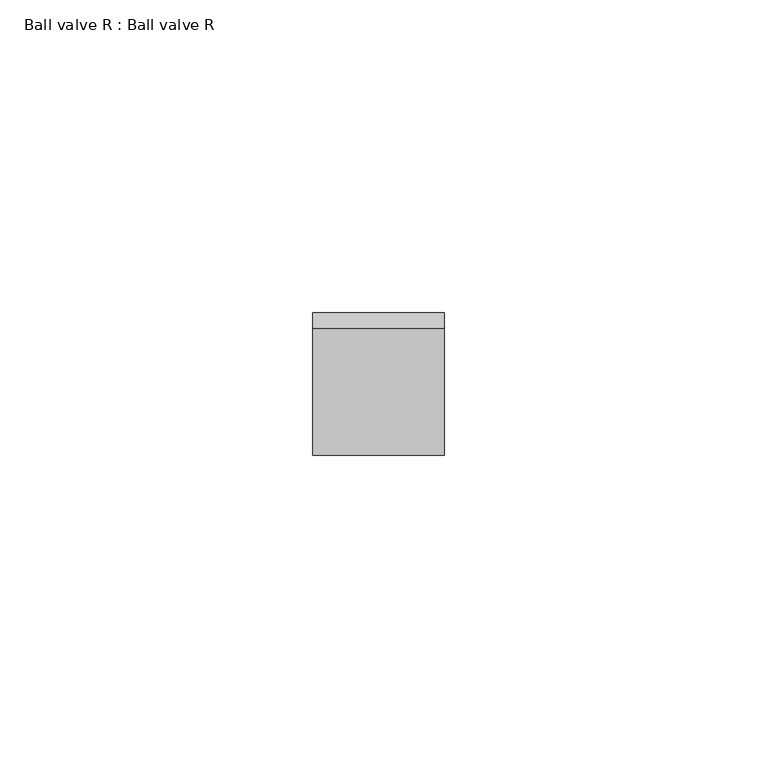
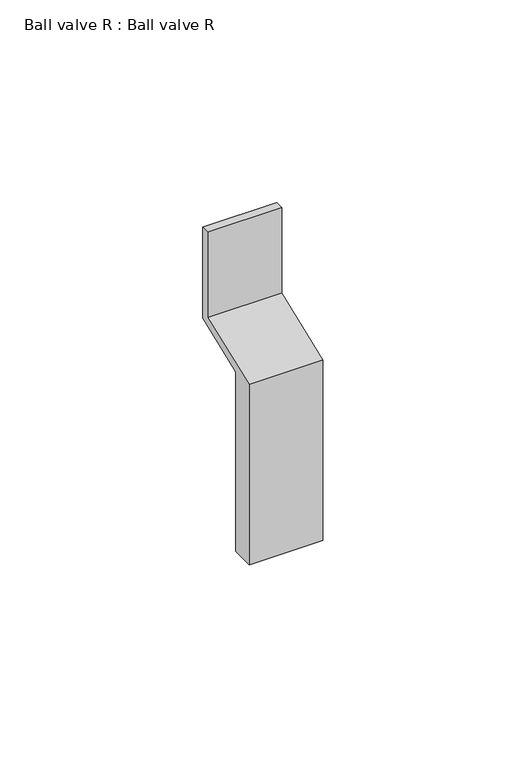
"""IFC4 building model written with IfcOpenShell, lengths in millimetres: proxy geometry, Ball valve R : Ball valve R."""

import ifcopenshell
import ifcopenshell.guid

model = None  # the IFC model being written
_history = None  # IfcOwnerHistory: only IFC2X3 demands one
_inside = {}  # id of a spatial element -> (the spatial element, [elements in it])
_under = {}  # id of a project, library or spatial element -> (it, [spatial elements below it])
_declared = {}  # id of a project -> (the project, [libraries it declares])
_typed = {}  # id of a type object -> (the type object, [elements of that type])
_made_of = {}  # id of a material, layer set ... -> (it, [elements and type objects made of it])


def new_model(schema):
    """Start an empty IFC model of exactly this schema.

    Asked for "IFC4X3", IfcOpenShell would pick the latest addendum, in which some entities
    have other attributes; the version numbers below select the first issue.
    IFC2X3 requires an IfcOwnerHistory on every rooted entity: one is made here for all.
    """
    global model, _history
    if schema == "IFC4X3":
        model = ifcopenshell.file(schema_version=(4, 3, 0, 0))
    else:
        model = ifcopenshell.file(schema=schema)
    _inside.clear()
    _under.clear()
    _declared.clear()
    _typed.clear()
    _made_of.clear()
    _history = None
    if model.schema == "IFC2X3":
        org = make("IfcOrganization", Name="unknown")
        user = make(
            "IfcPersonAndOrganization",
            ThePerson=make("IfcPerson", FamilyName="unknown"),
            TheOrganization=org,
        )
        app = make(
            "IfcApplication",
            ApplicationDeveloper=org,
            Version="unknown",
            ApplicationFullName="unknown",
            ApplicationIdentifier="unknown",
        )
        _history = make(
            "IfcOwnerHistory",
            OwningUser=user,
            OwningApplication=app,
            ChangeAction="ADDED",
            CreationDate=0,
        )
    return model


def make(cls, **values):
    """One entity of the class cls with the attributes given. An attribute that is None is left unset."""
    return model.create_entity(
        cls, **{name: value for name, value in values.items() if value is not None}
    )


def rooted(cls, **values):
    """An entity with a GlobalId (a new one), such as an element, a storey or a relation."""
    return make(cls, GlobalId=ifcopenshell.guid.new(), OwnerHistory=_history, **values)


def si_unit(unit_type, name, prefix=None):
    """IfcSIUnit, for example si_unit("LENGTHUNIT", "METRE", prefix="MILLI")."""
    return make("IfcSIUnit", UnitType=unit_type, Prefix=prefix, Name=name)


def assignment(units):
    """IfcUnitAssignment: the units of a project."""
    return None if units is None else make("IfcUnitAssignment", Units=units)


def point(xyz):
    """IfcCartesianPoint."""
    return None if xyz is None else make("IfcCartesianPoint", Coordinates=xyz)


def direction(xyz):
    """IfcDirection."""
    return None if xyz is None else make("IfcDirection", DirectionRatios=xyz)


def frame(location, z_axis=None, x_axis=None):
    """IfcAxis2Placement3D, a coordinate frame: its origin and axes. An axis left out is left unset."""
    return make(
        "IfcAxis2Placement3D",
        Location=point(location),
        Axis=direction(z_axis),
        RefDirection=direction(x_axis),
    )


def origin():
    """The frame at (0, 0, 0) with its axes left unset."""
    return frame((0.0, 0.0, 0.0))


def place(relative_to, where):
    """IfcLocalPlacement: puts the frame where relative to a parent placement (None: the world)."""
    return make(
        "IfcLocalPlacement", PlacementRelTo=relative_to, RelativePlacement=where
    )


def context(
    kind, dimensions, precision=None, world=None, true_north=None, identifier=None
):
    """IfcGeometricRepresentationContext, for example the 3D "Model" context."""
    return make(
        "IfcGeometricRepresentationContext",
        ContextIdentifier=identifier,
        ContextType=kind,
        CoordinateSpaceDimension=dimensions,
        Precision=precision,
        WorldCoordinateSystem=world,
        TrueNorth=true_north,
    )


def project(units=None, contexts=None):
    """IfcProject with its units and contexts."""
    return rooted(
        "IfcProject",
        Name="project",
        RepresentationContexts=contexts,
        UnitsInContext=assignment(units),
    )


def spatial(cls, under=None, at=None, **own):
    """A site, building, storey or space (cls), placed at a placement, below another one or the project."""
    s = rooted(cls, ObjectPlacement=at, **own)
    if under is not None:
        _under.setdefault(under.id(), (under, []))[1].append(s)
    return s


def polyline(points):
    """IfcPolyline through the points."""
    return make("IfcPolyline", Points=[point(p) for p in points])


def outline(outer, holes=None, kind="AREA"):
    """IfcArbitraryClosedProfileDef: a profile drawn as a closed curve; with holes, ...WithVoids."""
    if holes is None:
        return make("IfcArbitraryClosedProfileDef", ProfileType=kind, OuterCurve=outer)
    return make(
        "IfcArbitraryProfileDefWithVoids",
        ProfileType=kind,
        OuterCurve=outer,
        InnerCurves=holes,
    )


def extrude(swept, where, along, depth):
    """IfcExtrudedAreaSolid: the profile swept, set in the frame where, extruded along a direction by depth."""
    return make(
        "IfcExtrudedAreaSolid",
        SweptArea=swept,
        Position=where,
        ExtrudedDirection=direction(along),
        Depth=depth,
    )


def shape(context_of_items, identifier, shape_type, items):
    """IfcShapeRepresentation: the items that make up one representation, for example the "Body"."""
    return make(
        "IfcShapeRepresentation",
        ContextOfItems=context_of_items,
        RepresentationIdentifier=identifier,
        RepresentationType=shape_type,
        Items=items,
    )


def source(mapping_origin, context_of_items, identifier, shape_type, items):
    """IfcRepresentationMap: a shape defined once, which mapped items show again and again."""
    return make(
        "IfcRepresentationMap",
        MappingOrigin=mapping_origin,
        MappedRepresentation=shape(context_of_items, identifier, shape_type, items),
    )


def transform(
    local_origin,
    x_axis=None,
    y_axis=None,
    z_axis=None,
    scale=None,
    scale2=None,
    scale3=None,
    uniform=True,
):
    """IfcCartesianTransformationOperator3D, or its non-uniform kind. x_axis, y_axis, z_axis: its Axis1, 2, 3."""
    if uniform:
        return make(
            "IfcCartesianTransformationOperator3D",
            Axis1=direction(x_axis),
            Axis2=direction(y_axis),
            LocalOrigin=point(local_origin),
            Scale=scale,
            Axis3=direction(z_axis),
        )
    return make(
        "IfcCartesianTransformationOperator3DnonUniform",
        Axis1=direction(x_axis),
        Axis2=direction(y_axis),
        LocalOrigin=point(local_origin),
        Scale=scale,
        Axis3=direction(z_axis),
        Scale2=scale2,
        Scale3=scale3,
    )


def mapped(mapping_source, mapping_target):
    """IfcMappedItem: shows the shape of a source again, moved by a transform."""
    return make(
        "IfcMappedItem", MappingSource=mapping_source, MappingTarget=mapping_target
    )


def made_of(thing, what):
    """Note that an element or type object is made of a material, layer set ...; save() writes the relation."""
    if what is not None:
        _made_of.setdefault(what.id(), (what, []))[1].append(thing)
    return thing


def element(
    cls,
    number,
    at=None,
    inside=None,
    cuts=None,
    type_object=None,
    material=None,
    context=None,
    identifier="Body",
    shape_type=None,
    held_by="IfcProductDefinitionShape",
    body=None,
    shapes=None,
    **own,
):
    """One element of the class cls, such as IfcWall. Its Tag is "e" and its number.

    at: its placement. inside: the storey or other place that contains it. cuts: it is an
    opening in that element (IfcRelVoidsElement). A single representation is given by context,
    identifier, shape_type and body (its items); several are given by shapes. held_by: the class
    of the entity that holds the representations. save() writes the other relations.
    """
    e = rooted(cls, Tag="e%d" % number, ObjectPlacement=at, **own)
    if body is not None:
        shapes = [shape(context, identifier, shape_type, body)]
    if shapes is not None:
        e.Representation = make(held_by, Representations=shapes)
    if inside is not None:
        _inside.setdefault(inside.id(), (inside, []))[1].append(e)
    if cuts is not None:
        rooted(
            "IfcRelVoidsElement", RelatingBuildingElement=cuts, RelatedOpeningElement=e
        )
    if type_object is not None:
        _typed.setdefault(type_object.id(), (type_object, []))[1].append(e)
    return made_of(e, material)


def aggregate(whole, parts):
    """IfcRelAggregates: a whole, such as a stair, and the parts it consists of."""
    return rooted("IfcRelAggregates", RelatingObject=whole, RelatedObjects=parts)


def save(model, path):
    """Write the relations noted so far, then the file.

    IfcRelAggregates (storeys below a building ...), IfcRelContainedInSpatialStructure (elements
    in a storey), IfcRelDefinesByType, IfcRelAssociatesMaterial and IfcRelDeclares: one each for
    every whole, place, type object, material and project.
    """
    for whole, parts in _under.values():
        aggregate(whole, parts)
    for where, things in _inside.values():
        rooted(
            "IfcRelContainedInSpatialStructure",
            RelatedElements=things,
            RelatingStructure=where,
        )
    for kind, things in _typed.values():
        rooted("IfcRelDefinesByType", RelatedObjects=things, RelatingType=kind)
    for what, things in _made_of.values():
        rooted("IfcRelAssociatesMaterial", RelatedObjects=things, RelatingMaterial=what)
    for by, libraries in _declared.values():
        rooted("IfcRelDeclares", RelatingContext=by, RelatedDefinitions=libraries)
    model.write(path)


def ball_valve_r_ball_valve_r_0116fd80(model_context):
    return source(origin(), model_context, "Body", "SweptSolid", [
        extrude(outline(polyline([(3.25, -59.3027321), (-3.25, -59.3027321), (-3.25, -5.0690551), (17.0, 2.8817821), (17.0, 28.5), (19.5, 28.5), (19.5, 1.1775693), (3.25, -5.2027321), (3.25, -59.3027321)])), frame((-10.5, 0.0, 0.0), z_axis=(1.0, 0.0, 0.0), x_axis=(0.0, 1.0, 0.0)), (0.0, 0.0, 1.0), 21.0),
    ])


if __name__ == "__main__":
    model = new_model("IFC4")
    model_context = context("Model", 3, world=origin())
    ifc_project = project(units=[si_unit("LENGTHUNIT", "METRE", prefix="MILLI")], contexts=[model_context])
    site = spatial("IfcSite", under=ifc_project)
    building = spatial("IfcBuilding", under=site)
    placement = place(None, origin())
    ball_valve_r_ball_valve_r_shape = ball_valve_r_ball_valve_r_0116fd80(model_context)
    element("IfcBuildingElementProxy", 1, Name="Ball valve R : Ball valve R", ObjectType="Ball valve R : Ball valve R", at=placement, inside=building, context=model_context, shape_type="MappedRepresentation", body=[
        mapped(ball_valve_r_ball_valve_r_shape, transform((0.0, 0.0, 0.0), x_axis=(1.0, 0.0, 0.0), y_axis=(0.0, 1.0, 0.0), z_axis=(0.0, 0.0, 1.0))),
    ])
    save(model, "model.ifc")
